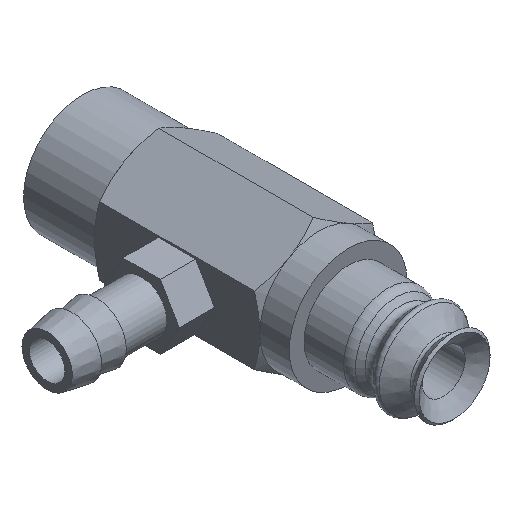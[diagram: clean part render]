
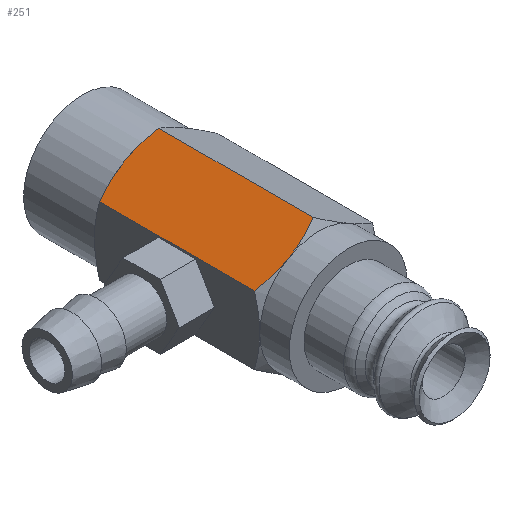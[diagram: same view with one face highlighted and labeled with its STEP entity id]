
A CAD part, isometric view. The second image highlights one B-rep face of the part: STEP entity #251.
In plain terms, the highlighted planar face has unit normal (-0.5, 0, 0.866).
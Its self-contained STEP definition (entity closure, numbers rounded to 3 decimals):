
#251=ADVANCED_FACE('',(#386),#387,.F.);
#386=FACE_OUTER_BOUND('',#583,.T.);
#387=PLANE('',#584);
#583=EDGE_LOOP('',(#939,#940,#941,#942,#943,#944));
#584=AXIS2_PLACEMENT_3D('',#945,#946,#947);
#939=ORIENTED_EDGE('',*,*,#1161,.T.);
#940=ORIENTED_EDGE('',*,*,#1197,.F.);
#941=ORIENTED_EDGE('',*,*,#1167,.F.);
#942=ORIENTED_EDGE('',*,*,#1168,.F.);
#943=ORIENTED_EDGE('',*,*,#1215,.F.);
#944=ORIENTED_EDGE('',*,*,#1185,.F.);
#945=CARTESIAN_POINT('',(-5.0,20.0,2.887));
#946=DIRECTION('',(0.5,0.0,-0.866));
#947=DIRECTION('',(0.0,-1.0,0.0));
#1161=EDGE_CURVE('',#1307,#1304,#1308,.T.);
#1167=EDGE_CURVE('',#1316,#1314,#1318,.T.);
#1168=EDGE_CURVE('',#1319,#1316,#1320,.T.);
#1185=EDGE_CURVE('',#1307,#1343,#1345,.T.);
#1197=EDGE_CURVE('',#1314,#1304,#1366,.T.);
#1215=EDGE_CURVE('',#1343,#1319,#1390,.T.);
#1304=VERTEX_POINT('',#1571);
#1307=VERTEX_POINT('',#1583);
#1308=LINE('',#1584,#1585);
#1314=VERTEX_POINT('',#1618);
#1316=VERTEX_POINT('',#1620);
#1318=B_SPLINE_CURVE_WITH_KNOTS('',3,(#1631,#1632,#1633,#1634,#1635,#1636,#1637,#1638,#1639,#1640),.UNSPECIFIED.,.F.,.F.,(4,1,1,1,1,1,1,4),(0.0,0.129,0.255,0.379,0.5,0.669,0.835,1.0),.UNSPECIFIED.);
#1319=VERTEX_POINT('',#1641);
#1320=LINE('',#1642,#1643);
#1343=VERTEX_POINT('',#1749);
#1345=B_SPLINE_CURVE_WITH_KNOTS('',3,(#1751,#1752,#1753,#1754,#1755,#1756,#1757,#1758,#1759,#1760),.UNSPECIFIED.,.F.,.F.,(4,1,1,1,1,1,1,4),(0.0,0.129,0.255,0.379,0.5,0.669,0.835,1.0),.UNSPECIFIED.);
#1366=B_SPLINE_CURVE_WITH_KNOTS('',3,(#1783,#1784,#1785,#1786,#1787,#1788,#1789,#1790,#1791,#1792),.UNSPECIFIED.,.F.,.F.,(4,1,1,1,1,1,1,4),(0.0,0.099,0.198,0.297,0.398,0.5,0.745,1.0),.UNSPECIFIED.);
#1390=B_SPLINE_CURVE_WITH_KNOTS('',3,(#1875,#1876,#1877,#1878,#1879,#1880,#1881,#1882,#1883,#1884),.UNSPECIFIED.,.F.,.F.,(4,1,1,1,1,1,1,4),(0.0,0.099,0.198,0.297,0.398,0.5,0.745,1.0),.UNSPECIFIED.);
#1571=CARTESIAN_POINT('',(-5.0,2.947,2.887));
#1583=CARTESIAN_POINT('',(-5.0,16.053,2.887));
#1584=CARTESIAN_POINT('',(-5.0,20.0,2.887));
#1585=VECTOR('',#1980,1.0);
#1618=CARTESIAN_POINT('',(-2.5,2.5,4.33));
#1620=CARTESIAN_POINT('',(0.0,2.947,5.774));
#1631=CARTESIAN_POINT('',(0.,2.947,5.774));
#1632=CARTESIAN_POINT('',(-0.105,2.912,5.713));
#1633=CARTESIAN_POINT('',(-0.313,2.845,5.593));
#1634=CARTESIAN_POINT('',(-0.624,2.757,5.413));
#1635=CARTESIAN_POINT('',(-0.931,2.682,5.236));
#1636=CARTESIAN_POINT('',(-1.276,2.61,5.037));
#1637=CARTESIAN_POINT('',(-1.659,2.55,4.816));
#1638=CARTESIAN_POINT('',(-2.08,2.508,4.572));
#1639=CARTESIAN_POINT('',(-2.36,2.503,4.411));
#1640=CARTESIAN_POINT('',(-2.5,2.5,4.33));
#1641=CARTESIAN_POINT('',(0.0,16.053,5.774));
#1642=CARTESIAN_POINT('',(0.0,20.0,5.774));
#1643=VECTOR('',#1984,1.0);
#1749=CARTESIAN_POINT('',(-2.5,16.5,4.33));
#1751=CARTESIAN_POINT('',(-5.,16.053,2.887));
#1752=CARTESIAN_POINT('',(-4.895,16.088,2.947));
#1753=CARTESIAN_POINT('',(-4.687,16.155,3.067));
#1754=CARTESIAN_POINT('',(-4.376,16.243,3.247));
#1755=CARTESIAN_POINT('',(-4.069,16.318,3.425));
#1756=CARTESIAN_POINT('',(-3.724,16.39,3.624));
#1757=CARTESIAN_POINT('',(-3.341,16.45,3.844));
#1758=CARTESIAN_POINT('',(-2.92,16.492,4.088));
#1759=CARTESIAN_POINT('',(-2.64,16.497,4.249));
#1760=CARTESIAN_POINT('',(-2.5,16.5,4.33));
#1783=CARTESIAN_POINT('',(-2.5,2.5,4.33));
#1784=CARTESIAN_POINT('',(-2.584,2.501,4.282));
#1785=CARTESIAN_POINT('',(-2.752,2.503,4.185));
#1786=CARTESIAN_POINT('',(-3.003,2.518,4.04));
#1787=CARTESIAN_POINT('',(-3.254,2.542,3.894));
#1788=CARTESIAN_POINT('',(-3.508,2.576,3.749));
#1789=CARTESIAN_POINT('',(-3.883,2.64,3.532));
#1790=CARTESIAN_POINT('',(-4.383,2.752,3.243));
#1791=CARTESIAN_POINT('',(-4.792,2.881,3.007));
#1792=CARTESIAN_POINT('',(-5.,2.947,2.887));
#1875=CARTESIAN_POINT('',(-2.5,16.5,4.33));
#1876=CARTESIAN_POINT('',(-2.416,16.499,4.379));
#1877=CARTESIAN_POINT('',(-2.248,16.497,4.475));
#1878=CARTESIAN_POINT('',(-1.997,16.482,4.62));
#1879=CARTESIAN_POINT('',(-1.745,16.458,4.766));
#1880=CARTESIAN_POINT('',(-1.492,16.424,4.912));
#1881=CARTESIAN_POINT('',(-1.118,16.36,5.129));
#1882=CARTESIAN_POINT('',(-0.617,16.248,5.417));
#1883=CARTESIAN_POINT('',(-0.208,16.119,5.653));
#1884=CARTESIAN_POINT('',(0.,16.053,5.774));
#1980=DIRECTION('',(0.0,-1.0,0.0));
#1984=DIRECTION('',(0.0,-1.0,0.0));
